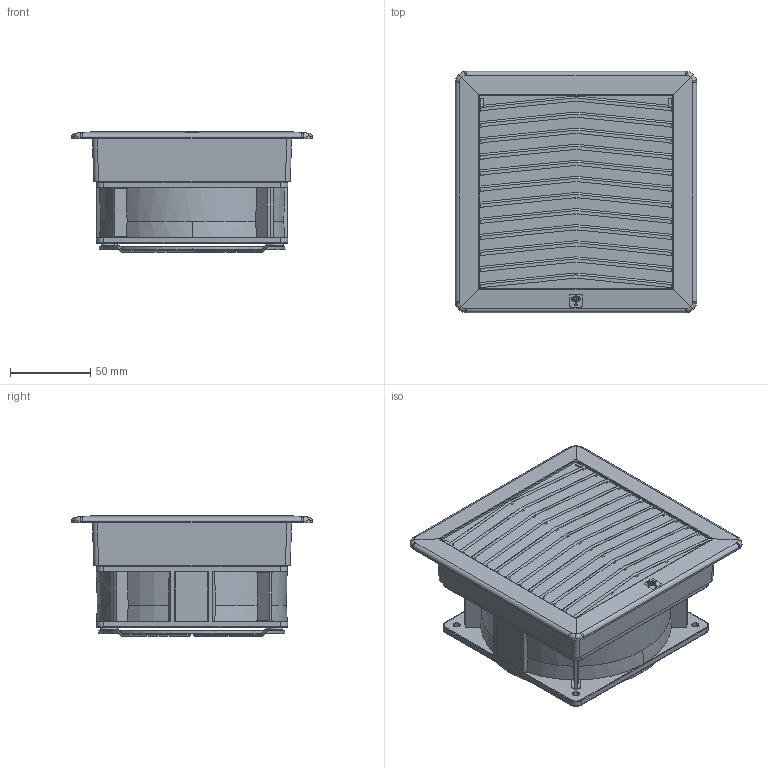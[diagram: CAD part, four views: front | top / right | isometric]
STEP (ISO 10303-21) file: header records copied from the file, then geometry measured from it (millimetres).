
FILE_DESCRIPTION (( 'STEP AP214' ), '1' );
FILE_NAME ('GF12KyxxxBER.STEP', '2023-10-16T13:40:16', ( '' ), ( '' ), 'SwSTEP 2.0', 'SolidWorks 2022', '' );
FILE_SCHEMA (( 'AUTOMOTIVE_DESIGN' ));
Length unit declared in the file: millimetre
Products named in the file (7): GF12B-7035_semplificata; DT-02360DSI_semplificata; DT-01843DSI_D. 4,5 - sp.0.3; GF12KyxxxBER; DT-01853DSI_Semplificata; GF12KUG_assieme semplificato; GF12C-7035_Semplificato
Assembly tree (6 placements, depth 3):
  GF12KyxxxBER
    GF12KUG_assieme semplificato
      GF12B-7035_semplificata
      GF12C-7035_Semplificato
    DT-02360DSI_semplificata
    DT-01853DSI_Semplificata
    DT-01843DSI_D. 4,5 - sp.0.3
Bounding box: 150 x 150 x 74.96 mm (x, y, z)
Volume: 956278.1 mm3; surface area: 147308 mm2
Topology: 16 solids, 25 shells, 595 faces, 1507 edges, 992 vertices
Faces by surface type: plane 300, bspline 166, cylinder 103, cone 23, torus 3
Entity records: 29401 total; most frequent: CARTESIAN_POINT 16158, ORIENTED_EDGE 3014, DIRECTION 2050, EDGE_CURVE 1507, VERTEX_POINT 992, VECTOR 810, LINE 810, EDGE_LOOP 645
